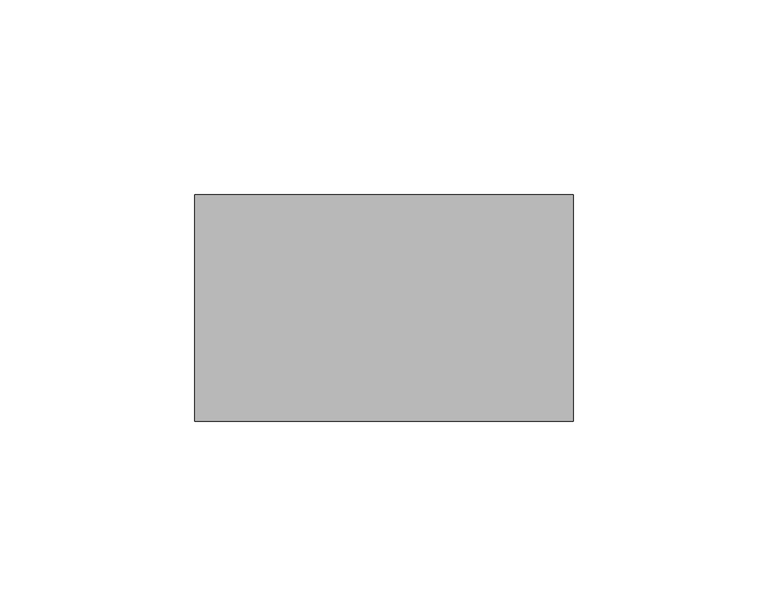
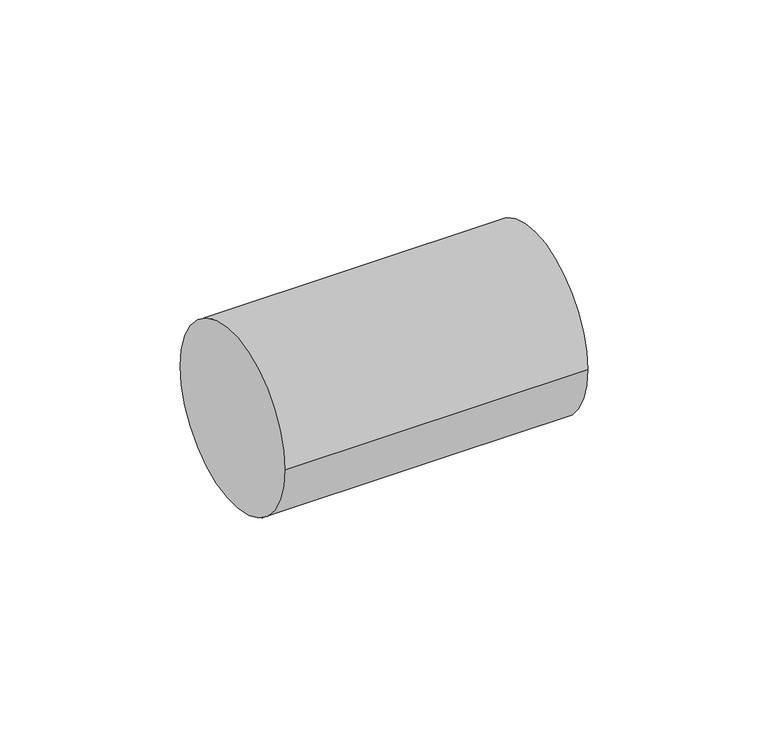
"""IFC4 building model written with IfcOpenShell, lengths in millimetres: pipe fitting geometry, 01051055 : Manchon longue."""

from ifc_helpers import new_model, si_unit, point, frame, origin, origin_2d, place, context, project, spatial, circle_curve, trimmed, segment, composite_curve, outline, extrude, source, transform, mapped, element, save


def pipe_fitting_966cb332(model_context):
    return source(origin(), model_context, "Body", "SweptSolid", [
        extrude(outline(composite_curve([segment(trimmed(circle_curve(origin_2d(), 29.0), [point((-29.0, 0.0))], [point((29.0, 0.0))], False, "CARTESIAN"), True, "CONTINUOUS"), segment(trimmed(circle_curve(origin_2d(), 29.0), [point((29.0, 0.0))], [point((-29.0, 0.0))], False, "CARTESIAN"), True, "CONTINUOUS")], self_intersect=False)), frame((-48.5, 0.0, 0.0), z_axis=(1.0, 0.0, 0.0), x_axis=(0.0, 1.0, 0.0)), (0.0, 0.0, 1.0), 97.0),
    ])


if __name__ == "__main__":
    model = new_model("IFC4")
    model_context = context("Model", 3, world=origin())
    ifc_project = project(units=[si_unit("LENGTHUNIT", "METRE", prefix="MILLI")], contexts=[model_context])
    site = spatial("IfcSite", under=ifc_project)
    building = spatial("IfcBuilding", under=site)
    placement = place(None, origin())
    pipe_fitting_shape = pipe_fitting_966cb332(model_context)
    element("IfcPipeFitting", 1, ObjectType="01051055 : Manchon longue", at=placement, inside=building, context=model_context, shape_type="MappedRepresentation", body=[
        mapped(pipe_fitting_shape, transform((0.0, 0.0, 0.0), x_axis=(1.0, 0.0, 0.0), y_axis=(0.0, 1.0, 0.0), z_axis=(0.0, 0.0, 1.0))),
    ])
    save(model, "model.ifc")
